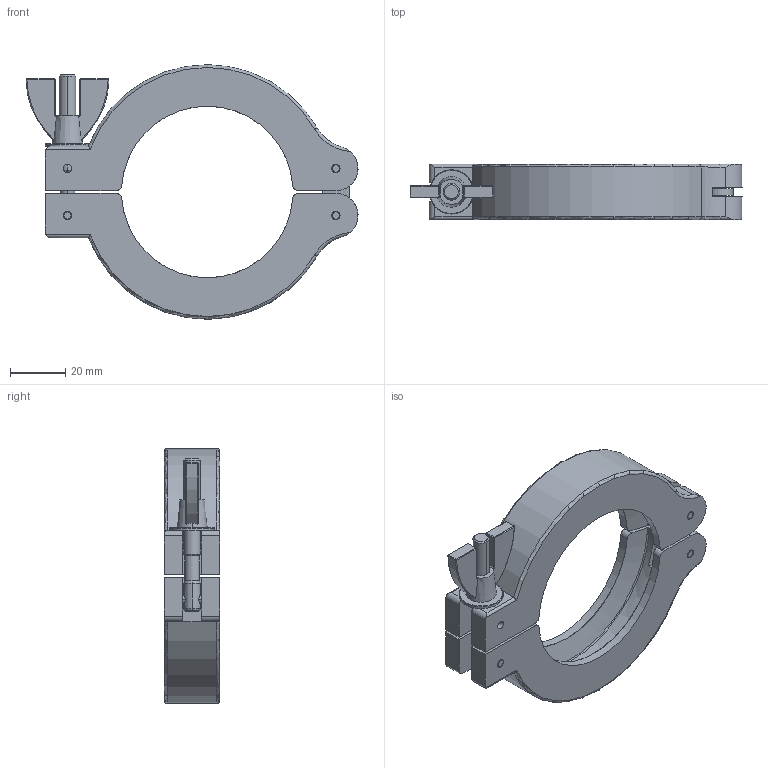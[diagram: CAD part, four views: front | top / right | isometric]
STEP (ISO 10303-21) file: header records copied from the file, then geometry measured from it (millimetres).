
FILE_DESCRIPTION((''),'2;1');
FILE_NAME('18345','2016-04-11T',('L0100062'),('Copyright by Leybold GmbH'),'PRO/ENGINEER BY PARAMETRIC TECHNOLOGY CORPORATION, 2015280','PRO/ENGINEER BY PARAMETRIC TECHNOLOGY CORPORATION, 2015280','');
FILE_SCHEMA(('AUTOMOTIVE_DESIGN { 1 0 10303 214 1 1 1 1 }'));
Length unit declared in the file: millimetre
Products named in the file (1): 18345-2016-03-02_SW0003
Bounding box: 119.99 x 20 x 92 mm (x, y, z)
Volume: 64159 mm3; surface area: 27981.4 mm2
Topology: 1 solids, 1 shells, 215 faces, 538 edges, 338 vertices
Faces by surface type: cylinder 86, plane 58, torus 22, bspline 21, cone 20, sphere 8
Entity records: 9317 total; most frequent: CARTESIAN_POINT 5066, ORIENTED_EDGE 1076, EDGE_CURVE 538, AXIS2_PLACEMENT_3D 424, VERTEX_POINT 338, EDGE_LOOP 240, CIRCLE 229, DIRECTION 226
